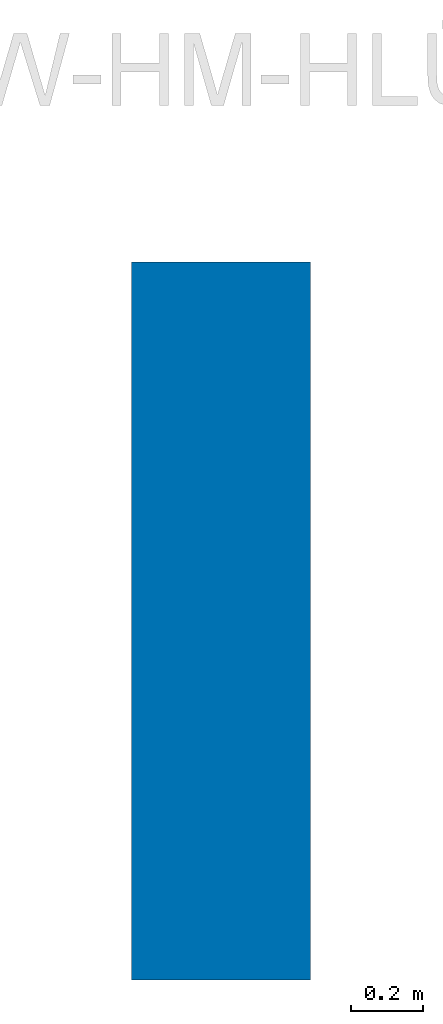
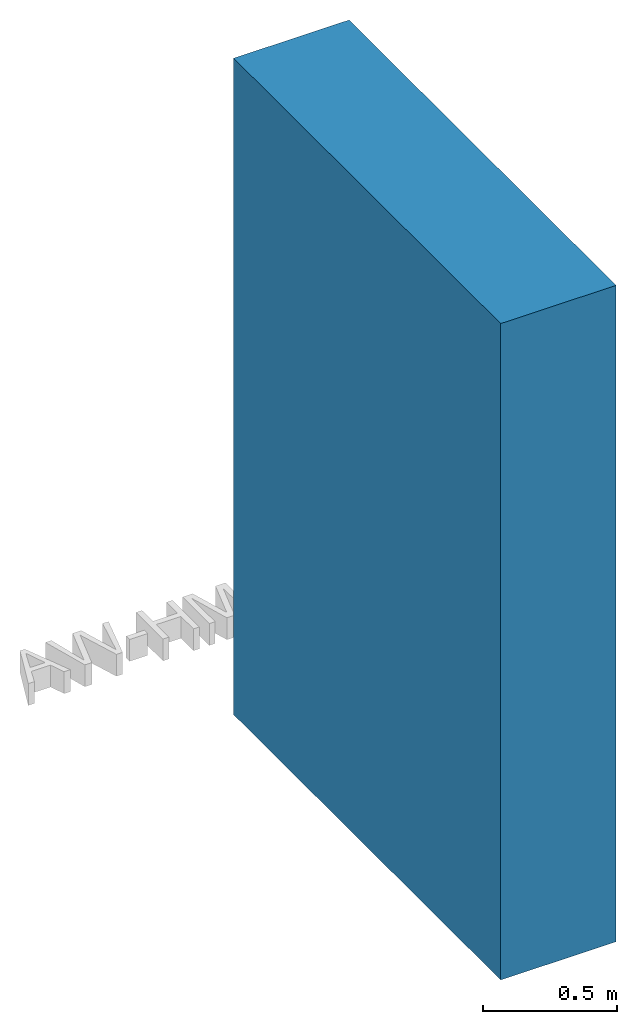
# Not in any storey, part 1 of 2: 1 wall.
"""IFC2X3 model written with IfcOpenShell, lengths in metres."""

from ifc_helpers import new_model, entity, si_unit, converted_unit, derived_unit, direction, frame, frame_2d, origin, place, context, subcontext, project, spatial, rectangle, extrude, material, layer, layer_set, layer_usage, type_object, element, save


model = new_model("IFC2X3")

# Units and contexts
model_context = context("Model", 3, precision=1e-05, world=origin(), true_north=direction((6.123031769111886e-17, 1.0)))
body_context = subcontext(model_context, "Body", "Model", "MODEL_VIEW")
ifc_project = project(units=[si_unit("LENGTHUNIT", "METRE"), si_unit("AREAUNIT", "SQUARE_METRE"), si_unit("VOLUMEUNIT", "CUBIC_METRE"), converted_unit("PLANEANGLEUNIT", "DEGREE", entity("IfcRatioMeasure", 0.017453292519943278), si_unit("PLANEANGLEUNIT", "RADIAN"), dimensions=[0, 0, 0, 0, 0, 0, 0]), si_unit("MASSUNIT", "GRAM", prefix="KILO"), derived_unit("MASSDENSITYUNIT", [(si_unit("MASSUNIT", "GRAM", prefix="KILO"), 1), (si_unit("LENGTHUNIT", "METRE"), -3)]), derived_unit("MOMENTOFINERTIAUNIT", [(si_unit("LENGTHUNIT", "METRE"), 4)]), si_unit("TIMEUNIT", "SECOND"), si_unit("FREQUENCYUNIT", "HERTZ"), si_unit("THERMODYNAMICTEMPERATUREUNIT", "DEGREE_CELSIUS"), derived_unit("THERMALTRANSMITTANCEUNIT", [(si_unit("MASSUNIT", "GRAM", prefix="KILO"), 1), (si_unit("THERMODYNAMICTEMPERATUREUNIT", "KELVIN"), -1), (si_unit("TIMEUNIT", "SECOND"), -3)]), derived_unit("VOLUMETRICFLOWRATEUNIT", [(si_unit("LENGTHUNIT", "METRE"), 3), (si_unit("TIMEUNIT", "SECOND"), -1)]), derived_unit("MASSFLOWRATEUNIT", [(si_unit("MASSUNIT", "GRAM", prefix="KILO"), 1), (si_unit("TIMEUNIT", "SECOND"), -1)]), derived_unit("ROTATIONALFREQUENCYUNIT", [(si_unit("TIMEUNIT", "SECOND"), -1)]), si_unit("ELECTRICCURRENTUNIT", "AMPERE"), si_unit("ELECTRICVOLTAGEUNIT", "VOLT"), si_unit("POWERUNIT", "WATT"), si_unit("FORCEUNIT", "NEWTON", prefix="KILO"), si_unit("ILLUMINANCEUNIT", "LUX"), si_unit("LUMINOUSFLUXUNIT", "LUMEN"), si_unit("LUMINOUSINTENSITYUNIT", "CANDELA"), derived_unit("USERDEFINED", [(si_unit("MASSUNIT", "GRAM", prefix="KILO"), -1), (si_unit("LENGTHUNIT", "METRE"), -2), (si_unit("TIMEUNIT", "SECOND"), 3), (si_unit("LUMINOUSFLUXUNIT", "LUMEN"), 1)]), derived_unit("SOUNDPOWERUNIT", [(si_unit("MASSUNIT", "GRAM", prefix="KILO"), 1), (si_unit("LENGTHUNIT", "METRE"), 2), (si_unit("TIMEUNIT", "SECOND"), -3)]), derived_unit("SOUNDPRESSUREUNIT", [(si_unit("MASSUNIT", "GRAM", prefix="KILO"), 1), (si_unit("LENGTHUNIT", "METRE"), -1), (si_unit("TIMEUNIT", "SECOND"), -2)]), derived_unit("LINEARVELOCITYUNIT", [(si_unit("LENGTHUNIT", "METRE"), 1), (si_unit("TIMEUNIT", "SECOND"), -1)]), si_unit("PRESSUREUNIT", "PASCAL"), derived_unit("USERDEFINED", [(si_unit("LENGTHUNIT", "METRE"), -2), (si_unit("MASSUNIT", "GRAM", prefix="KILO"), 1), (si_unit("TIMEUNIT", "SECOND"), -2)]), derived_unit("LINEARFORCEUNIT", [(si_unit("MASSUNIT", "GRAM", prefix="KILO"), 1), (si_unit("LENGTHUNIT", "METRE"), 1), (si_unit("TIMEUNIT", "SECOND"), -2), (si_unit("LENGTHUNIT", "METRE"), -1)]), derived_unit("PLANARFORCEUNIT", [(si_unit("MASSUNIT", "GRAM", prefix="KILO"), 1), (si_unit("LENGTHUNIT", "METRE"), 1), (si_unit("TIMEUNIT", "SECOND"), -2), (si_unit("LENGTHUNIT", "METRE"), -2)])], contexts=[model_context])

# Site
site_placement = place(None, origin())
site = spatial("IfcSite", under=ifc_project, at=site_placement, Name="Default", CompositionType="ELEMENT")

# Wall
ifc_material_1 = material(Name="fbim_12400515_AT_025_Vollholz_Bretter_Laerche")
ifc_layer_1 = layer(ifc_material_1, 0.019)
ifc_material_2 = material(Name="fbim_14100590_AT_001_Luftschicht")
ifc_layer_2 = layer(ifc_material_2, 0.04)
ifc_material_3 = material(Name="fbim_16101505_AT_001_Gipsfaserplatte_12.5mm")
ifc_layer_3 = layer(ifc_material_3, 0.015)
ifc_material_4 = material(Name="fbim_14104515_AT_090_Zellulose_Einblasdaemmung")
ifc_layer_4 = layer(ifc_material_4, 0.28)
ifc_material_5 = material(Name="fbim_12401005_AT_001_Brettsperrholz")
ifc_layer_5 = layer(ifc_material_5, 0.1)
ifc_material_6 = material(Name="fbim_16200505_AT_050_Lehm_Grundputz")
ifc_layer_6 = layer(ifc_material_6, 0.04)
ifc_material_7 = material(Name="fbim_16200510_AT_050_Lehm_Duennputz")
ifc_layer_7 = layer(ifc_material_7, 0.005)
ifc_layer_set = layer_set([ifc_layer_1, ifc_layer_2, ifc_layer_3, ifc_layer_4, ifc_layer_5, ifc_layer_6, ifc_layer_7], Name="Basiswand:fbimSg_Wall_lb_WOD_vis_at_NTR_natuREbuilt_AW-HM-HLÜ-L_GK4")
ifc_layer_usage = layer_usage(ifc_layer_set, "AXIS2", "NEGATIVE", 0.2495)
wall_type = type_object("IfcWallType", Name="Basiswand:fbimSg_Wall_lb_WOD_vis_at_NTR_natuREbuilt_AW-HM-HLÜ-L_GK4", PredefinedType="STANDARD", material=ifc_layer_set)
wall_placement = place(site_placement, frame((7.920841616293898, 23.77968993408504, 0.0), z_axis=(0.0, 0.0, 1.0), x_axis=(0.0, -1.0, 0.0)))
element("IfcWallStandardCase", 1, at=wall_placement, inside=site, type_object=wall_type, material=ifc_layer_usage, Name="Basiswand:fbimSg_Wall_lb_WOD_vis_at_NTR_natuREbuilt_AW-HM-HLÜ-L_GK4", ObjectType="Basiswand:fbimSg_Wall_lb_WOD_vis_at_NTR_natuREbuilt_AW-HM-HLÜ-L_GK4", context=body_context, shape_type="SweptSolid", body=[
    extrude(rectangle(XDim=2.0, YDim=0.49899999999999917, at=frame_2d((1.0, 0.0), x_axis=(-1.0, 0.0))), origin(), (0.0, 0.0, 1.0), 3.0000000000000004),
])

save(model, "model.ifc")
